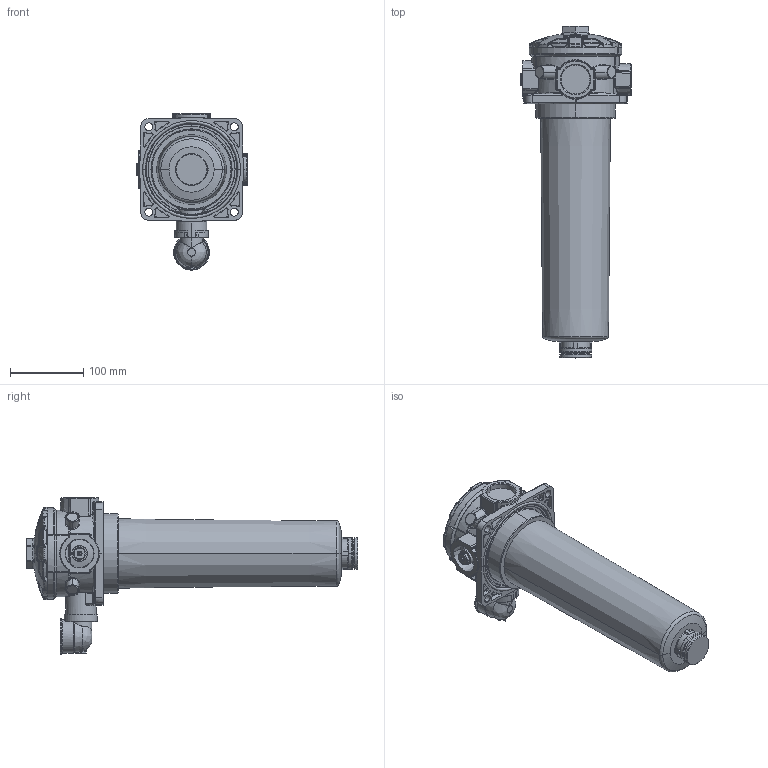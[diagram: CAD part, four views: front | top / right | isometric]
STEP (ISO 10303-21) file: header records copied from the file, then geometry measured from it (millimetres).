
FILE_DESCRIPTION((''),'2;1');
FILE_NAME('E_212-358_MIT_SECHSKANT_ANSCHLU','2024-09-04T15:07:19',('a.heinl'),(''),'CREO PARAMETRIC BY PTC INC, 2023254','CREO PARAMETRIC BY PTC INC, 2023254','');
FILE_SCHEMA(('AUTOMOTIVE_DESIGN { 1 0 10303 214 1 1 1 1 }'));
Length unit declared in the file: millimetre
Products named in the file (1): E_212-358_MIT_SECHSKANT_ANSCHLU
Bounding box: 150.75 x 453.6 x 213.5 mm (x, y, z)
Volume: 3512782 mm3; surface area: 213183.4 mm2
Topology: 1 solids, 4 shells, 1786 faces, 4535 edges, 2767 vertices
Faces by surface type: bspline 531, plane 461, cylinder 364, torus 189, cone 146, sphere 80, extrusion 15
Entity records: 111054 total; most frequent: CARTESIAN_POINT 45788, ORIENTED_EDGE 8978, DIRECTION 6998, PRESENTATION_STYLE_ASSIGNMENT 6290, STYLED_ITEM 4505, CURVE_STYLE 4504, EDGE_CURVE 4489, AXIS2_PLACEMENT_3D 2976
